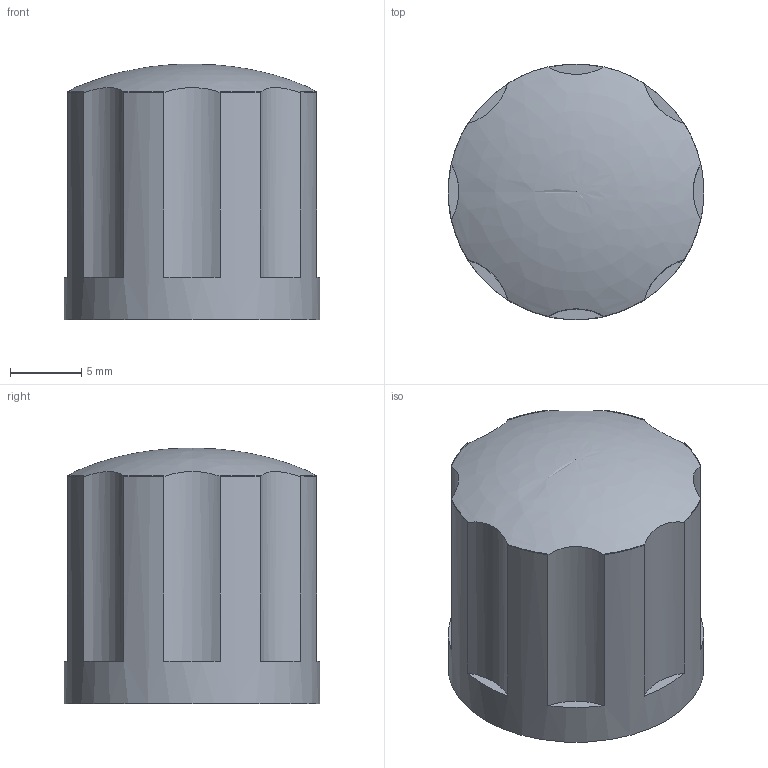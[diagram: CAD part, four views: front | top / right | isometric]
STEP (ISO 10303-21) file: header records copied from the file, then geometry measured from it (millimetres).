
FILE_DESCRIPTION(('FreeCAD Model'),'2;1');
FILE_NAME('E:/CAD Designs/Garmin/Final/CAD files/STEP/knob_8slot.step', '2021-02-27T12:58:55',('Author'),(''), 'Open CASCADE STEP processor 7.3','FreeCAD','Unknown');
FILE_SCHEMA(('AUTOMOTIVE_DESIGN { 1 0 10303 214 1 1 1 1 }'));
Length unit declared in the file: millimetre
Products named in the file (1): Body
Bounding box: 18 x 18 x 18 mm (x, y, z)
Volume: 3609.7 mm3; surface area: 1768.1 mm2
Topology: 1 solids, 1 shells, 32 faces, 87 edges, 58 vertices
Faces by surface type: plane 12, cylinder 11, cone 8, revolution 1
Full cylindrical faces by diameter (mm): 8 x1, 18 x1
Entity records: 3003 total; most frequent: CARTESIAN_POINT 1371, DIRECTION 275, ORIENTED_EDGE 172, PCURVE 172, DEFINITIONAL_REPRESENTATION 172, LINE 122, VECTOR 122, EDGE_CURVE 86
